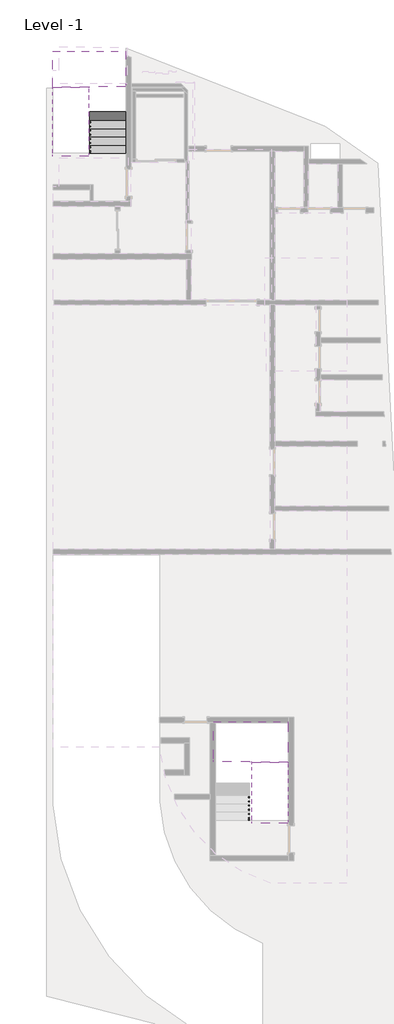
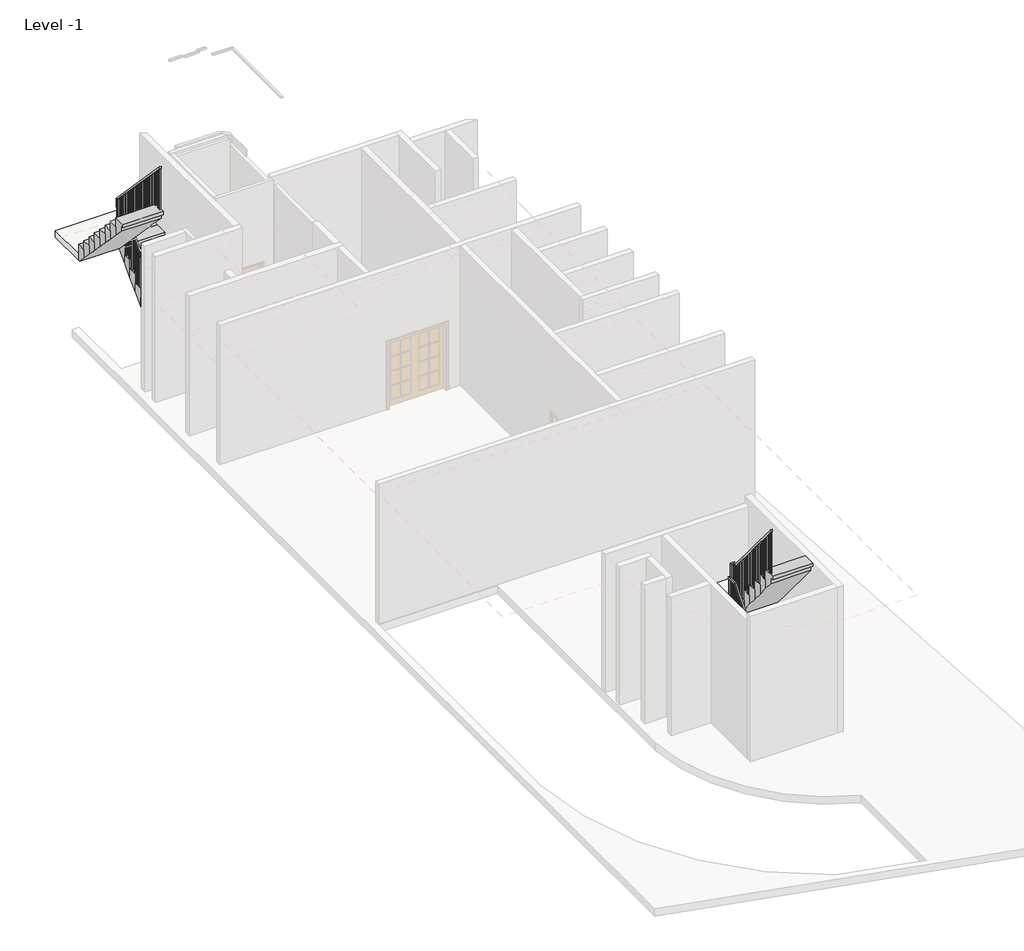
# One storey, part 3 of 3: 3 stair flights, 2 railings, 2 slabs.
"""IFC4 building model written with IfcOpenShell, lengths in millimetres."""

from ifc_helpers import new_model, si_unit, frame, origin, place, context, project, spatial, polyline, outline, extrude, faceted_brep, element, save

model = new_model("IFC4")

# Units and contexts
model_context = context("Model", 3, world=origin())
ifc_project = project(units=[si_unit("LENGTHUNIT", "METRE", prefix="MILLI")], contexts=[model_context])

# Site, building, storey
site = spatial("IfcSite", under=ifc_project)
building = spatial("IfcBuilding", under=site)
storey = spatial("IfcBuildingStorey", under=building, Name="Level -1", Elevation=-3500.0)

# Railings
placement = place(None, origin())
element("IfcRailing", 1, ObjectType="1100mm", at=placement, inside=storey, context=model_context, shape_type="SolidModel", body=[
    faceted_brep([(1179.9765888, 10328.8506586, -2106.25), (1179.9765888, 10328.8506586, -2178.717679), (1229.9765888, 10328.8506586, -2178.717679), (1229.9765888, 10328.8506586, -2106.25), (1179.9765888, 12288.8506586, -50.0), (1179.9765888, 12310.266659, -100.0), (1229.9765888, 12310.266659, -100.0), (1229.9765888, 12288.8506586, -50.0), (1179.9765888, 12569.2506586, -50.0), (1179.9765888, 12569.2506586, -100.0), (1229.9765888, 12619.2506586, -100.0), (1229.9765888, 12619.2506586, -50.0), (1159.5709975, 12569.2506586, -50.0), (1159.5709975, 12619.2506586, -50.0), (1109.5709975, 12619.2506586, -100.0), (1109.5709975, 12569.2506586, -100.0)], [[[0, 1, 2, 3]], [[1, 0, 4, 5]], [[2, 1, 5, 6]], [[3, 2, 6, 7]], [[0, 3, 7, 4]], [[5, 4, 8, 9]], [[6, 5, 9, 10]], [[7, 6, 10, 11]], [[4, 7, 11, 8]], [[12, 13, 14, 15]], [[9, 8, 12, 15]], [[10, 9, 15, 14]], [[11, 10, 14, 13]], [[8, 11, 13, 12]]]),
    faceted_brep([(1159.5709975, 12569.2506586, -50.0), (1109.5709975, 12569.2506586, -100.0), (1109.5709975, 12619.2506586, -100.0), (1159.5709975, 12619.2506586, -50.0), (1159.5709975, 12569.2506586, 170.8626782), (1159.5709975, 12619.2506586, 190.875), (1109.5709975, 12619.2506586, 190.875), (1109.5709975, 12569.2506586, 170.8626782)], [[[0, 1, 2, 3]], [[4, 5, 6, 7]], [[1, 0, 4, 7]], [[2, 1, 7, 6]], [[3, 2, 6, 5]], [[0, 3, 5, 4]]]),
    faceted_brep([(1159.5709975, 12619.2506586, 190.875), (1159.5709975, 12569.2506586, 170.8626782), (1109.5709975, 12569.2506586, 170.8626782), (1109.5709975, 12619.2506586, 190.875), (1159.5709975, 10328.8506586, 2593.75), (1109.5709975, 10328.8506586, 2593.75), (1109.5709975, 10328.8506586, 2521.282321), (1159.5709975, 10328.8506586, 2521.282321)], [[[0, 1, 2, 3]], [[4, 5, 6, 7]], [[1, 0, 4, 7]], [[2, 1, 7, 6]], [[3, 2, 6, 5]], [[0, 3, 5, 4]]]),
    extrude(outline(polyline([(10436.7506586, 1200.0), (10411.7506586, 1200.0), (10411.7506586, 2434.3113389), (10436.7506586, 2408.0836603), (10436.7506586, 1200.0)])), frame((1122.0709975, 0.0, 0.0), z_axis=(1.0, 0.0, 0.0), x_axis=(0.0, 1.0, 0.0)), (0.0, 0.0, 1.0), 25.0),
    extrude(outline(polyline([(10576.7506586, 1200.0), (10551.7506586, 1200.0), (10551.7506586, 2287.4363389), (10576.7506586, 2261.2086603), (10576.7506586, 1200.0)])), frame((1122.0709975, 0.0, 0.0), z_axis=(1.0, 0.0, 0.0), x_axis=(0.0, 1.0, 0.0)), (0.0, 0.0, 1.0), 25.0),
    extrude(outline(polyline([(10716.7506586, 906.25), (10691.7506586, 906.25), (10691.7506586, 2140.5613389), (10716.7506586, 2114.3336603), (10716.7506586, 906.25)])), frame((1122.0709975, 0.0, 0.0), z_axis=(1.0, 0.0, 0.0), x_axis=(0.0, 1.0, 0.0)), (0.0, 0.0, 1.0), 25.0),
    extrude(outline(polyline([(10856.7506586, 906.25), (10831.7506586, 906.25), (10831.7506586, 1993.6863389), (10856.7506586, 1967.4586603), (10856.7506586, 906.25)])), frame((1122.0709975, 0.0, 0.0), z_axis=(1.0, 0.0, 0.0), x_axis=(0.0, 1.0, 0.0)), (0.0, 0.0, 1.0), 25.0),
    extrude(outline(polyline([(10996.7506586, 612.5), (10971.7506586, 612.5), (10971.7506586, 1846.8113389), (10996.7506586, 1820.5836603), (10996.7506586, 612.5)])), frame((1122.0709975, 0.0, 0.0), z_axis=(1.0, 0.0, 0.0), x_axis=(0.0, 1.0, 0.0)), (0.0, 0.0, 1.0), 25.0),
    extrude(outline(polyline([(11136.7506586, 612.5), (11111.7506586, 612.5), (11111.7506586, 1699.9363389), (11136.7506586, 1673.7086603), (11136.7506586, 612.5)])), frame((1122.0709975, 0.0, 0.0), z_axis=(1.0, 0.0, 0.0), x_axis=(0.0, 1.0, 0.0)), (0.0, 0.0, 1.0), 25.0),
    extrude(outline(polyline([(11276.7506586, 318.75), (11251.7506586, 318.75), (11251.7506586, 1553.0613389), (11276.7506586, 1526.8336603), (11276.7506586, 318.75)])), frame((1122.0709975, 0.0, 0.0), z_axis=(1.0, 0.0, 0.0), x_axis=(0.0, 1.0, 0.0)), (0.0, 0.0, 1.0), 25.0),
    extrude(outline(polyline([(11416.7506586, 318.75), (11391.7506586, 318.75), (11391.7506586, 1406.1863389), (11416.7506586, 1379.9586603), (11416.7506586, 318.75)])), frame((1122.0709975, 0.0, 0.0), z_axis=(1.0, 0.0, 0.0), x_axis=(0.0, 1.0, 0.0)), (0.0, 0.0, 1.0), 25.0),
    extrude(outline(polyline([(11556.7506586, 25.0), (11531.7506586, 25.0), (11531.7506586, 1259.3113389), (11556.7506586, 1233.0836603), (11556.7506586, 25.0)])), frame((1122.0709975, 0.0, 0.0), z_axis=(1.0, 0.0, 0.0), x_axis=(0.0, 1.0, 0.0)), (0.0, 0.0, 1.0), 25.0),
    extrude(outline(polyline([(11696.7506586, 25.0), (11671.7506586, 25.0), (11671.7506586, 1112.4363389), (11696.7506586, 1086.2086603), (11696.7506586, 25.0)])), frame((1122.0709975, 0.0, 0.0), z_axis=(1.0, 0.0, 0.0), x_axis=(0.0, 1.0, 0.0)), (0.0, 0.0, 1.0), 25.0),
    extrude(outline(polyline([(11836.7506586, -268.75), (11811.7506586, -268.75), (11811.7506586, 965.5613389), (11836.7506586, 939.3336603), (11836.7506586, -268.75)])), frame((1122.0709975, 0.0, 0.0), z_axis=(1.0, 0.0, 0.0), x_axis=(0.0, 1.0, 0.0)), (0.0, 0.0, 1.0), 25.0),
    extrude(outline(polyline([(11976.7506586, -268.75), (11951.7506586, -268.75), (11951.7506586, 818.6863389), (11976.7506586, 792.4586603), (11976.7506586, -268.75)])), frame((1122.0709975, 0.0, 0.0), z_axis=(1.0, 0.0, 0.0), x_axis=(0.0, 1.0, 0.0)), (0.0, 0.0, 1.0), 25.0),
    extrude(outline(polyline([(12116.7506586, -562.5), (12091.7506586, -562.5), (12091.7506586, 671.8113389), (12116.7506586, 645.5836603), (12116.7506586, -562.5)])), frame((1122.0709975, 0.0, 0.0), z_axis=(1.0, 0.0, 0.0), x_axis=(0.0, 1.0, 0.0)), (0.0, 0.0, 1.0), 25.0),
    extrude(outline(polyline([(12256.7506586, -562.5), (12231.7506586, -562.5), (12231.7506586, 524.9363389), (12256.7506586, 498.7086603), (12256.7506586, -562.5)])), frame((1122.0709975, 0.0, 0.0), z_axis=(1.0, 0.0, 0.0), x_axis=(0.0, 1.0, 0.0)), (0.0, 0.0, 1.0), 25.0),
    extrude(outline(polyline([(12396.7506586, -856.25), (12371.7506586, -856.25), (12371.7506586, 378.0613389), (12396.7506586, 351.8336603), (12396.7506586, -856.25)])), frame((1122.0709975, 0.0, 0.0), z_axis=(1.0, 0.0, 0.0), x_axis=(0.0, 1.0, 0.0)), (0.0, 0.0, 1.0), 25.0),
    extrude(outline(polyline([(12536.7506586, -856.25), (12511.7506586, -856.25), (12511.7506586, 231.1863389), (12536.7506586, 204.9586603), (12536.7506586, -856.25)])), frame((1122.0709975, 0.0, 0.0), z_axis=(1.0, 0.0, 0.0), x_axis=(0.0, 1.0, 0.0)), (0.0, 0.0, 1.0), 25.0),
    extrude(outline(polyline([(1147.4765888, 12581.7506586), (1122.4765888, 12581.7506586), (1122.4765888, 12606.7506586), (1147.4765888, 12606.7506586), (1147.4765888, 12581.7506586)])), frame((0.0, 0.0, -1150.0), z_axis=(0.0, 0.0, 1.0), x_axis=(1.0, 0.0, 0.0)), (0.0, 0.0, 1.0), 1050.0),
    extrude(outline(polyline([(1192.4765888, 12486.3506586), (1192.4765888, 12511.3506586), (1217.4765888, 12511.3506586), (1217.4765888, 12486.3506586), (1192.4765888, 12486.3506586)])), frame((0.0, 0.0, -1150.0), z_axis=(0.0, 0.0, 1.0), x_axis=(1.0, 0.0, 0.0)), (0.0, 0.0, 1.0), 1050.0),
    extrude(outline(polyline([(1192.4765888, 12346.3506586), (1192.4765888, 12371.3506586), (1217.4765888, 12371.3506586), (1217.4765888, 12346.3506586), (1192.4765888, 12346.3506586)])), frame((0.0, 0.0, -1150.0), z_axis=(0.0, 0.0, 1.0), x_axis=(1.0, 0.0, 0.0)), (0.0, 0.0, 1.0), 1050.0),
    extrude(outline(polyline([(12206.3506586, -209.0190182), (12231.3506586, -182.7913397), (12231.3506586, -1443.75), (12206.3506586, -1443.75), (12206.3506586, -209.0190182)])), frame((1192.4765888, 0.0, 0.0), z_axis=(1.0, 0.0, 0.0), x_axis=(0.0, 1.0, 0.0)), (0.0, 0.0, 1.0), 25.0),
    extrude(outline(polyline([(12066.3506586, -355.8940182), (12091.3506586, -329.6663397), (12091.3506586, -1443.75), (12066.3506586, -1443.75), (12066.3506586, -355.8940182)])), frame((1192.4765888, 0.0, 0.0), z_axis=(1.0, 0.0, 0.0), x_axis=(0.0, 1.0, 0.0)), (0.0, 0.0, 1.0), 25.0),
    extrude(outline(polyline([(11926.3506586, -502.7690182), (11951.3506586, -476.5413397), (11951.3506586, -1737.5), (11926.3506586, -1737.5), (11926.3506586, -502.7690182)])), frame((1192.4765888, 0.0, 0.0), z_axis=(1.0, 0.0, 0.0), x_axis=(0.0, 1.0, 0.0)), (0.0, 0.0, 1.0), 25.0),
    extrude(outline(polyline([(11786.3506586, -649.6440182), (11811.3506586, -623.4163397), (11811.3506586, -1737.5), (11786.3506586, -1737.5), (11786.3506586, -649.6440182)])), frame((1192.4765888, 0.0, 0.0), z_axis=(1.0, 0.0, 0.0), x_axis=(0.0, 1.0, 0.0)), (0.0, 0.0, 1.0), 25.0),
    extrude(outline(polyline([(11646.3506586, -796.5190182), (11671.3506586, -770.2913397), (11671.3506586, -2031.25), (11646.3506586, -2031.25), (11646.3506586, -796.5190182)])), frame((1192.4765888, 0.0, 0.0), z_axis=(1.0, 0.0, 0.0), x_axis=(0.0, 1.0, 0.0)), (0.0, 0.0, 1.0), 25.0),
    extrude(outline(polyline([(11506.3506586, -943.3940182), (11531.3506586, -917.1663397), (11531.3506586, -2031.25), (11506.3506586, -2031.25), (11506.3506586, -943.3940182)])), frame((1192.4765888, 0.0, 0.0), z_axis=(1.0, 0.0, 0.0), x_axis=(0.0, 1.0, 0.0)), (0.0, 0.0, 1.0), 25.0),
    extrude(outline(polyline([(11366.3506586, -1090.2690182), (11391.3506586, -1064.0413397), (11391.3506586, -2325.0), (11366.3506586, -2325.0), (11366.3506586, -1090.2690182)])), frame((1192.4765888, 0.0, 0.0), z_axis=(1.0, 0.0, 0.0), x_axis=(0.0, 1.0, 0.0)), (0.0, 0.0, 1.0), 25.0),
    extrude(outline(polyline([(11226.3506586, -1237.1440182), (11251.3506586, -1210.9163397), (11251.3506586, -2325.0), (11226.3506586, -2325.0), (11226.3506586, -1237.1440182)])), frame((1192.4765888, 0.0, 0.0), z_axis=(1.0, 0.0, 0.0), x_axis=(0.0, 1.0, 0.0)), (0.0, 0.0, 1.0), 25.0),
    extrude(outline(polyline([(11086.3506586, -1384.0190182), (11111.3506586, -1357.7913397), (11111.3506586, -2618.75), (11086.3506586, -2618.75), (11086.3506586, -1384.0190182)])), frame((1192.4765888, 0.0, 0.0), z_axis=(1.0, 0.0, 0.0), x_axis=(0.0, 1.0, 0.0)), (0.0, 0.0, 1.0), 25.0),
    extrude(outline(polyline([(10946.3506586, -1530.8940182), (10971.3506586, -1504.6663397), (10971.3506586, -2618.75), (10946.3506586, -2618.75), (10946.3506586, -1530.8940182)])), frame((1192.4765888, 0.0, 0.0), z_axis=(1.0, 0.0, 0.0), x_axis=(0.0, 1.0, 0.0)), (0.0, 0.0, 1.0), 25.0),
    extrude(outline(polyline([(10806.3506586, -1677.7690182), (10831.3506586, -1651.5413397), (10831.3506586, -2912.5), (10806.3506586, -2912.5), (10806.3506586, -1677.7690182)])), frame((1192.4765888, 0.0, 0.0), z_axis=(1.0, 0.0, 0.0), x_axis=(0.0, 1.0, 0.0)), (0.0, 0.0, 1.0), 25.0),
    extrude(outline(polyline([(10666.3506586, -1824.6440182), (10691.3506586, -1798.4163397), (10691.3506586, -2912.5), (10666.3506586, -2912.5), (10666.3506586, -1824.6440182)])), frame((1192.4765888, 0.0, 0.0), z_axis=(1.0, 0.0, 0.0), x_axis=(0.0, 1.0, 0.0)), (0.0, 0.0, 1.0), 25.0),
    extrude(outline(polyline([(10526.3506586, -1971.5190182), (10551.3506586, -1945.2913397), (10551.3506586, -3206.25), (10526.3506586, -3206.25), (10526.3506586, -1971.5190182)])), frame((1192.4765888, 0.0, 0.0), z_axis=(1.0, 0.0, 0.0), x_axis=(0.0, 1.0, 0.0)), (0.0, 0.0, 1.0), 25.0),
    extrude(outline(polyline([(10386.3506586, -2118.3940182), (10411.3506586, -2092.1663397), (10411.3506586, -3206.25), (10386.3506586, -3206.25), (10386.3506586, -2118.3940182)])), frame((1192.4765888, 0.0, 0.0), z_axis=(1.0, 0.0, 0.0), x_axis=(0.0, 1.0, 0.0)), (0.0, 0.0, 1.0), 25.0),
    extrude(outline(polyline([(1147.0709975, 12606.7506586), (1147.0709975, 12581.7506586), (1122.0709975, 12581.7506586), (1122.0709975, 12606.7506586), (1147.0709975, 12606.7506586)])), frame((0.0, 0.0, -1150.0), z_axis=(0.0, 0.0, 1.0), x_axis=(1.0, 0.0, 0.0)), (0.0, 0.0, 1.0), 1050.0),
    extrude(outline(polyline([(1192.4765888, 12581.7506586), (1192.4765888, 12606.7506586), (1217.4765888, 12606.7506586), (1217.4765888, 12581.7506586), (1192.4765888, 12581.7506586)])), frame((0.0, 0.0, -1150.0), z_axis=(0.0, 0.0, 1.0), x_axis=(1.0, 0.0, 0.0)), (0.0, 0.0, 1.0), 1050.0),
    extrude(outline(polyline([(12276.3506586, -135.5815182), (12301.3506586, -109.3538397), (12301.3506586, -1150.0), (12276.3506586, -1150.0), (12276.3506586, -135.5815182)])), frame((1192.4765888, 0.0, 0.0), z_axis=(1.0, 0.0, 0.0), x_axis=(0.0, 1.0, 0.0)), (0.0, 0.0, 1.0), 25.0),
    extrude(outline(polyline([(10353.8506586, 1200.0), (10328.8506586, 1200.0), (10328.8506586, 2521.282321), (10353.8506586, 2495.0546425), (10353.8506586, 1200.0)])), frame((1122.0709975, 0.0, 0.0), z_axis=(1.0, 0.0, 0.0), x_axis=(0.0, 1.0, 0.0)), (0.0, 0.0, 1.0), 25.0),
    extrude(outline(polyline([(10328.8506586, -2178.717679), (10353.8506586, -2152.4900004), (10353.8506586, -3206.25), (10328.8506586, -3206.25), (10328.8506586, -2178.717679)])), frame((1192.4765888, 0.0, 0.0), z_axis=(1.0, 0.0, 0.0), x_axis=(0.0, 1.0, 0.0)), (0.0, 0.0, 1.0), 25.0),
])
element("IfcRailing", 2, ObjectType="1100mm", at=placement, inside=storey, context=model_context, shape_type="SolidModel", body=[
    faceted_brep([(6559.5709976, -12235.6929429, -2064.2857143), (6559.5709976, -12235.6929429, -2142.3490229), (6609.5709976, -12235.6929429, -2142.3490229), (6609.5709976, -12235.6929429, -2064.2857143), (6559.5709976, -10555.6929429, -50.0), (6559.5709976, -10532.2869493, -100.0), (6609.5709976, -10532.2869493, -100.0), (6609.5709976, -10555.6929429, -50.0), (6559.5709976, -10225.2929429, -50.0), (6559.5709976, -10225.2929429, -100.0), (6609.5709976, -10275.2929429, -100.0), (6609.5709976, -10275.2929429, -50.0), (6615.3709976, -10225.2929429, -50.0), (6665.3709976, -10225.2929429, -100.0), (6665.3709976, -10275.2929429, -100.0), (6615.3709976, -10275.2929429, -50.0), (6615.3709976, -10225.2929429, 375.1581633), (6665.3709976, -10225.2929429, 325.1581633), (6665.3709976, -10275.2929429, 325.1581633), (6615.3709976, -10275.2929429, 375.1581633), (6740.3709976, -10225.2929429, 375.1581633), (6740.3709976, -10225.2929429, 325.1581633), (6690.3709976, -10275.2929429, 325.1581633), (6690.3709976, -10275.2929429, 375.1581633), (6740.3709976, -10350.2929429, 375.1581633), (6740.3709976, -10373.6989365, 325.1581633), (6690.3709976, -10373.6989365, 325.1581633), (6690.3709976, -10350.2929429, 375.1581633), (6740.3709976, -12235.6929429, 2635.7142857), (6690.3709976, -12235.6929429, 2635.7142857), (6690.3709976, -12235.6929429, 2557.6509771), (6740.3709976, -12235.6929429, 2557.6509771)], [[[0, 1, 2, 3]], [[1, 0, 4, 5]], [[2, 1, 5, 6]], [[3, 2, 6, 7]], [[0, 3, 7, 4]], [[5, 4, 8, 9]], [[6, 5, 9, 10]], [[7, 6, 10, 11]], [[4, 7, 11, 8]], [[9, 8, 12, 13]], [[10, 9, 13, 14]], [[11, 10, 14, 15]], [[8, 11, 15, 12]], [[13, 12, 16, 17]], [[14, 13, 17, 18]], [[15, 14, 18, 19]], [[12, 15, 19, 16]], [[17, 16, 20, 21]], [[18, 17, 21, 22]], [[19, 18, 22, 23]], [[16, 19, 23, 20]], [[21, 20, 24, 25]], [[22, 21, 25, 26]], [[23, 22, 26, 27]], [[20, 23, 27, 24]], [[28, 29, 30, 31]], [[25, 24, 28, 31]], [[26, 25, 31, 30]], [[27, 26, 30, 29]], [[24, 27, 29, 28]]]),
    extrude(outline(polyline([(-12127.7929429, 2428.2810791), (-12127.7929429, 1200.0), (-12152.7929429, 1200.0), (-12152.7929429, 2458.2555689), (-12127.7929429, 2428.2810791)])), frame((6702.8709976, 0.0, 0.0), z_axis=(1.0, 0.0, 0.0), x_axis=(0.0, 1.0, 0.0)), (0.0, 0.0, 1.0), 25.0),
    extrude(outline(polyline([(-11987.7929429, 2260.4239363), (-11987.7929429, 1200.0), (-12012.7929429, 1200.0), (-12012.7929429, 2290.3984261), (-11987.7929429, 2260.4239363)])), frame((6702.8709976, 0.0, 0.0), z_axis=(1.0, 0.0, 0.0), x_axis=(0.0, 1.0, 0.0)), (0.0, 0.0, 1.0), 25.0),
    extrude(outline(polyline([(-11847.7929429, 2092.5667934), (-11847.7929429, 864.2857143), (-11872.7929429, 864.2857143), (-11872.7929429, 2122.5412832), (-11847.7929429, 2092.5667934)])), frame((6702.8709976, 0.0, 0.0), z_axis=(1.0, 0.0, 0.0), x_axis=(0.0, 1.0, 0.0)), (0.0, 0.0, 1.0), 25.0),
    extrude(outline(polyline([(-11707.7929429, 1924.7096506), (-11707.7929429, 864.2857143), (-11732.7929429, 864.2857143), (-11732.7929429, 1954.6841404), (-11707.7929429, 1924.7096506)])), frame((6702.8709976, 0.0, 0.0), z_axis=(1.0, 0.0, 0.0), x_axis=(0.0, 1.0, 0.0)), (0.0, 0.0, 1.0), 25.0),
    extrude(outline(polyline([(-11567.7929429, 1756.8525077), (-11567.7929429, 528.5714286), (-11592.7929429, 528.5714286), (-11592.7929429, 1786.8269975), (-11567.7929429, 1756.8525077)])), frame((6702.8709976, 0.0, 0.0), z_axis=(1.0, 0.0, 0.0), x_axis=(0.0, 1.0, 0.0)), (0.0, 0.0, 1.0), 25.0),
    extrude(outline(polyline([(-11427.7929429, 1588.9953648), (-11427.7929429, 528.5714286), (-11452.7929429, 528.5714286), (-11452.7929429, 1618.9698546), (-11427.7929429, 1588.9953648)])), frame((6702.8709976, 0.0, 0.0), z_axis=(1.0, 0.0, 0.0), x_axis=(0.0, 1.0, 0.0)), (0.0, 0.0, 1.0), 25.0),
    extrude(outline(polyline([(-11287.7929429, 1421.138222), (-11287.7929429, 192.8571429), (-11312.7929429, 192.8571429), (-11312.7929429, 1451.1127118), (-11287.7929429, 1421.138222)])), frame((6702.8709976, 0.0, 0.0), z_axis=(1.0, 0.0, 0.0), x_axis=(0.0, 1.0, 0.0)), (0.0, 0.0, 1.0), 25.0),
    extrude(outline(polyline([(-11147.7929429, 1253.2810791), (-11147.7929429, 192.8571429), (-11172.7929429, 192.8571429), (-11172.7929429, 1283.2555689), (-11147.7929429, 1253.2810791)])), frame((6702.8709976, 0.0, 0.0), z_axis=(1.0, 0.0, 0.0), x_axis=(0.0, 1.0, 0.0)), (0.0, 0.0, 1.0), 25.0),
    extrude(outline(polyline([(-11007.7929429, 1085.4239363), (-11007.7929429, -142.8571429), (-11032.7929429, -142.8571429), (-11032.7929429, 1115.3984261), (-11007.7929429, 1085.4239363)])), frame((6702.8709976, 0.0, 0.0), z_axis=(1.0, 0.0, 0.0), x_axis=(0.0, 1.0, 0.0)), (0.0, 0.0, 1.0), 25.0),
    extrude(outline(polyline([(-10867.7929429, 917.5667934), (-10867.7929429, -142.8571429), (-10892.7929429, -142.8571429), (-10892.7929429, 947.5412832), (-10867.7929429, 917.5667934)])), frame((6702.8709976, 0.0, 0.0), z_axis=(1.0, 0.0, 0.0), x_axis=(0.0, 1.0, 0.0)), (0.0, 0.0, 1.0), 25.0),
    extrude(outline(polyline([(-10727.7929429, 749.7096506), (-10727.7929429, -478.5714286), (-10752.7929429, -478.5714286), (-10752.7929429, 779.6841404), (-10727.7929429, 749.7096506)])), frame((6702.8709976, 0.0, 0.0), z_axis=(1.0, 0.0, 0.0), x_axis=(0.0, 1.0, 0.0)), (0.0, 0.0, 1.0), 25.0),
    extrude(outline(polyline([(-10587.7929429, 581.8525077), (-10587.7929429, -478.5714286), (-10612.7929429, -478.5714286), (-10612.7929429, 611.8269975), (-10587.7929429, 581.8525077)])), frame((6702.8709976, 0.0, 0.0), z_axis=(1.0, 0.0, 0.0), x_axis=(0.0, 1.0, 0.0)), (0.0, 0.0, 1.0), 25.0),
    extrude(outline(polyline([(-10447.7929429, 413.9953648), (-10447.7929429, -814.2857143), (-10472.7929429, -814.2857143), (-10472.7929429, 443.9698546), (-10447.7929429, 413.9953648)])), frame((6702.8709976, 0.0, 0.0), z_axis=(1.0, 0.0, 0.0), x_axis=(0.0, 1.0, 0.0)), (0.0, 0.0, 1.0), 25.0),
    extrude(outline(polyline([(6702.8709976, -10307.7929429), (6727.8709976, -10307.7929429), (6727.8709976, -10332.7929429), (6702.8709976, -10332.7929429), (6702.8709976, -10307.7929429)])), frame((0.0, 0.0, -814.2857143), z_axis=(0.0, 0.0, 1.0), x_axis=(1.0, 0.0, 0.0)), (0.0, 0.0, 1.0), 1139.4438776),
    extrude(outline(polyline([(6642.0709976, -10262.7929429), (6642.0709976, -10237.7929429), (6667.0709976, -10237.7929429), (6667.0709976, -10262.7929429), (6642.0709976, -10262.7929429)])), frame((0.0, 0.0, -1150.0), z_axis=(0.0, 0.0, 1.0), x_axis=(1.0, 0.0, 0.0)), (0.0, 0.0, 1.0), 1050.0),
    extrude(outline(polyline([(6597.0709976, -10358.1929429), (6572.0709976, -10358.1929429), (6572.0709976, -10333.1929429), (6597.0709976, -10333.1929429), (6597.0709976, -10358.1929429)])), frame((0.0, 0.0, -1150.0), z_axis=(0.0, 0.0, 1.0), x_axis=(1.0, 0.0, 0.0)), (0.0, 0.0, 1.0), 1050.0),
    extrude(outline(polyline([(6597.0709976, -10498.1929429), (6572.0709976, -10498.1929429), (6572.0709976, -10473.1929429), (6597.0709976, -10473.1929429), (6597.0709976, -10498.1929429)])), frame((0.0, 0.0, -1150.0), z_axis=(0.0, 0.0, 1.0), x_axis=(1.0, 0.0, 0.0)), (0.0, 0.0, 1.0), 1050.0),
    extrude(outline(polyline([(-10638.1929429, -1485.7142857), (-10638.1929429, -226.979125), (-10613.1929429, -197.0046352), (-10613.1929429, -1485.7142857), (-10638.1929429, -1485.7142857)])), frame((6572.0709976, 0.0, 0.0), z_axis=(1.0, 0.0, 0.0), x_axis=(0.0, 1.0, 0.0)), (0.0, 0.0, 1.0), 25.0),
    extrude(outline(polyline([(-10778.1929429, -1485.7142857), (-10778.1929429, -394.8362678), (-10753.1929429, -364.861778), (-10753.1929429, -1485.7142857), (-10778.1929429, -1485.7142857)])), frame((6572.0709976, 0.0, 0.0), z_axis=(1.0, 0.0, 0.0), x_axis=(0.0, 1.0, 0.0)), (0.0, 0.0, 1.0), 25.0),
    extrude(outline(polyline([(-10918.1929429, -1821.4285714), (-10918.1929429, -562.6934107), (-10893.1929429, -532.7189209), (-10893.1929429, -1821.4285714), (-10918.1929429, -1821.4285714)])), frame((6572.0709976, 0.0, 0.0), z_axis=(1.0, 0.0, 0.0), x_axis=(0.0, 1.0, 0.0)), (0.0, 0.0, 1.0), 25.0),
    extrude(outline(polyline([(-11058.1929429, -1821.4285714), (-11058.1929429, -730.5505535), (-11033.1929429, -700.5760637), (-11033.1929429, -1821.4285714), (-11058.1929429, -1821.4285714)])), frame((6572.0709976, 0.0, 0.0), z_axis=(1.0, 0.0, 0.0), x_axis=(0.0, 1.0, 0.0)), (0.0, 0.0, 1.0), 25.0),
    extrude(outline(polyline([(-11198.1929429, -2157.1428571), (-11198.1929429, -898.4076964), (-11173.1929429, -868.4332066), (-11173.1929429, -2157.1428571), (-11198.1929429, -2157.1428571)])), frame((6572.0709976, 0.0, 0.0), z_axis=(1.0, 0.0, 0.0), x_axis=(0.0, 1.0, 0.0)), (0.0, 0.0, 1.0), 25.0),
    extrude(outline(polyline([(-11338.1929429, -2157.1428571), (-11338.1929429, -1066.2648392), (-11313.1929429, -1036.2903494), (-11313.1929429, -2157.1428571), (-11338.1929429, -2157.1428571)])), frame((6572.0709976, 0.0, 0.0), z_axis=(1.0, 0.0, 0.0), x_axis=(0.0, 1.0, 0.0)), (0.0, 0.0, 1.0), 25.0),
    extrude(outline(polyline([(-11478.1929429, -2492.8571429), (-11478.1929429, -1234.1219821), (-11453.1929429, -1204.1474923), (-11453.1929429, -2492.8571429), (-11478.1929429, -2492.8571429)])), frame((6572.0709976, 0.0, 0.0), z_axis=(1.0, 0.0, 0.0), x_axis=(0.0, 1.0, 0.0)), (0.0, 0.0, 1.0), 25.0),
    extrude(outline(polyline([(-11618.1929429, -2492.8571429), (-11618.1929429, -1401.979125), (-11593.1929429, -1372.0046352), (-11593.1929429, -2492.8571429), (-11618.1929429, -2492.8571429)])), frame((6572.0709976, 0.0, 0.0), z_axis=(1.0, 0.0, 0.0), x_axis=(0.0, 1.0, 0.0)), (0.0, 0.0, 1.0), 25.0),
    extrude(outline(polyline([(-11758.1929429, -2828.5714286), (-11758.1929429, -1569.8362678), (-11733.1929429, -1539.861778), (-11733.1929429, -2828.5714286), (-11758.1929429, -2828.5714286)])), frame((6572.0709976, 0.0, 0.0), z_axis=(1.0, 0.0, 0.0), x_axis=(0.0, 1.0, 0.0)), (0.0, 0.0, 1.0), 25.0),
    extrude(outline(polyline([(-11898.1929429, -2828.5714286), (-11898.1929429, -1737.6934107), (-11873.1929429, -1707.7189209), (-11873.1929429, -2828.5714286), (-11898.1929429, -2828.5714286)])), frame((6572.0709976, 0.0, 0.0), z_axis=(1.0, 0.0, 0.0), x_axis=(0.0, 1.0, 0.0)), (0.0, 0.0, 1.0), 25.0),
    extrude(outline(polyline([(-12038.1929429, -3164.2857143), (-12038.1929429, -1905.5505535), (-12013.1929429, -1875.5760637), (-12013.1929429, -3164.2857143), (-12038.1929429, -3164.2857143)])), frame((6572.0709976, 0.0, 0.0), z_axis=(1.0, 0.0, 0.0), x_axis=(0.0, 1.0, 0.0)), (0.0, 0.0, 1.0), 25.0),
    extrude(outline(polyline([(-12178.1929429, -3164.2857143), (-12178.1929429, -2073.4076964), (-12153.1929429, -2043.4332066), (-12153.1929429, -3164.2857143), (-12178.1929429, -3164.2857143)])), frame((6572.0709976, 0.0, 0.0), z_axis=(1.0, 0.0, 0.0), x_axis=(0.0, 1.0, 0.0)), (0.0, 0.0, 1.0), 25.0),
    extrude(outline(polyline([(6702.8709976, -10237.7929429), (6727.8709976, -10237.7929429), (6727.8709976, -10262.7929429), (6702.8709976, -10262.7929429), (6702.8709976, -10237.7929429)])), frame((0.0, 0.0, -1150.0), z_axis=(0.0, 0.0, 1.0), x_axis=(1.0, 0.0, 0.0)), (0.0, 0.0, 1.0), 1475.1581633),
    extrude(outline(polyline([(6597.0709976, -10262.7929429), (6572.0709976, -10262.7929429), (6572.0709976, -10237.7929429), (6597.0709976, -10237.7929429), (6597.0709976, -10262.7929429)])), frame((0.0, 0.0, -1150.0), z_axis=(0.0, 0.0, 1.0), x_axis=(1.0, 0.0, 0.0)), (0.0, 0.0, 1.0), 1050.0),
    extrude(outline(polyline([(-10568.1929429, -1150.0), (-10568.1929429, -143.0505535), (-10543.1929429, -113.0760637), (-10543.1929429, -1150.0), (-10568.1929429, -1150.0)])), frame((6572.0709976, 0.0, 0.0), z_axis=(1.0, 0.0, 0.0), x_axis=(0.0, 1.0, 0.0)), (0.0, 0.0, 1.0), 25.0),
    extrude(outline(polyline([(-12210.6929429, 2527.6764873), (-12210.6929429, 1200.0), (-12235.6929429, 1200.0), (-12235.6929429, 2557.6509771), (-12210.6929429, 2527.6764873)])), frame((6702.8709976, 0.0, 0.0), z_axis=(1.0, 0.0, 0.0), x_axis=(0.0, 1.0, 0.0)), (0.0, 0.0, 1.0), 25.0),
    extrude(outline(polyline([(-12235.6929429, -3164.2857143), (-12235.6929429, -2142.3490229), (-12210.6929429, -2112.3745331), (-12210.6929429, -3164.2857143), (-12235.6929429, -3164.2857143)])), frame((6572.0709976, 0.0, 0.0), z_axis=(1.0, 0.0, 0.0), x_axis=(0.0, 1.0, 0.0)), (0.0, 0.0, 1.0), 25.0),
])

# Slabs
element("IfcSlab", 3, ObjectType="220mm Thickness", at=placement, inside=storey, context=model_context, shape_type="Brep", body=[
    faceted_brep([(2399.5765888, 13788.8506586, -1150.0), (-60.0290025, 13788.8506586, -1150.0), (-60.0290025, 12568.8506586, -1150.0), (1159.9709975, 12568.8506586, -1150.0), (1177.9890888, 12568.8506586, -1150.0), (1177.9890888, 12678.8506586, -1150.0), (2399.5765888, 12678.8506586, -1150.0), (2399.5765888, 13788.8506586, -1370.0), (2399.5765888, 12678.8506586, -1260.0), (2399.5765888, 12578.8506586, -1260.0), (2399.5765888, 12578.8506586, -1370.0), (-60.0290025, 13788.8506586, -1370.0), (-60.0290025, 12568.8506586, -1370.0), (1159.9709975, 12568.8506586, -1370.0), (1177.9890888, 12568.8506586, -1370.0), (1177.9890888, 12578.8506586, -1370.0), (1177.9890888, 12678.8506586, -1260.0), (1177.9890888, 12578.8506586, -1260.0)], [[[0, 1, 2, 3, 4, 5, 6]], [[7, 0, 6, 8, 9, 10]], [[1, 0, 7, 11]], [[2, 1, 11, 12]], [[3, 2, 12, 13]], [[3, 13, 14, 4]], [[11, 7, 10, 15, 14, 13, 12]], [[16, 17, 9, 8]], [[5, 16, 8, 6]], [[16, 5, 4, 14, 15, 17]], [[9, 17, 15, 10]]]),
])
element("IfcSlab", 4, ObjectType="220mm Thickness", at=placement, inside=storey, context=model_context, shape_type="Brep", body=[
    faceted_brep([(6689.9709976, -10275.6929429, -1150.0), (7909.9709976, -10275.6929429, -1150.0), (7909.9709976, -8910.0372616, -1150.0), (5389.9709976, -8910.0372616, -1150.0), (5389.9709976, -10165.6929429, -1150.0), (6611.5584976, -10165.6929429, -1150.0), (6611.5584976, -10275.6929429, -1150.0), (6689.9709976, -10275.6929429, -1370.0), (6611.5584976, -10275.6929429, -1370.0), (7909.9709976, -10275.6929429, -1370.0), (7909.9709976, -8910.0372616, -1370.0), (5389.9709976, -8910.0372616, -1370.0), (5389.9709976, -10265.6929429, -1370.0), (5389.9709976, -10265.6929429, -1260.0), (5389.9709976, -10165.6929429, -1260.0), (6611.5584976, -10265.6929429, -1370.0), (6611.5584976, -10265.6929429, -1260.0), (6611.5584976, -10165.6929429, -1260.0)], [[[0, 1, 2, 3, 4, 5, 6]], [[7, 0, 6, 8]], [[1, 0, 7, 9]], [[2, 1, 9, 10]], [[3, 2, 10, 11]], [[3, 11, 12, 13, 14, 4]], [[9, 7, 8, 15, 12, 11, 10]], [[16, 17, 14, 13]], [[5, 17, 16, 15, 8, 6]], [[17, 5, 4, 14]], [[16, 13, 12, 15]]]),
])

# Stair flights
element("IfcStairFlight", 5, ObjectType="190mm Depth", at=placement, inside=storey, context=model_context, shape_type="Brep", body=[
    faceted_brep([(1179.5765888, 10608.8506586, -3206.25), (1179.5765888, 10328.8506586, -3206.25), (2399.5765888, 10328.8506586, -3206.25), (2399.5765888, 10608.8506586, -3206.25), (1179.5765888, 10608.8506586, -3481.62718), (1179.5765888, 10591.337843, -3500.0), (1179.5765888, 10328.8506586, -3500.0), (2399.5765888, 10328.8506586, -3500.0), (2399.5765888, 10591.337843, -3500.0), (2399.5765888, 10608.8506586, -3481.62718), (1179.5765888, 10888.8506586, -2912.5), (1179.5765888, 10608.8506586, -2912.5), (2399.5765888, 10608.8506586, -2912.5), (2399.5765888, 10888.8506586, -2912.5), (1179.5765888, 10888.8506586, -3187.87718), (2399.5765888, 10888.8506586, -3187.87718), (1179.5765888, 11168.8506586, -2618.75), (1179.5765888, 10888.8506586, -2618.75), (2399.5765888, 10888.8506586, -2618.75), (2399.5765888, 11168.8506586, -2618.75), (1179.5765888, 11168.8506586, -2894.12718), (2399.5765888, 11168.8506586, -2894.12718), (1179.5765888, 11448.8506586, -2325.0), (1179.5765888, 11168.8506586, -2325.0), (2399.5765888, 11168.8506586, -2325.0), (2399.5765888, 11448.8506586, -2325.0), (1179.5765888, 11448.8506586, -2600.37718), (2399.5765888, 11448.8506586, -2600.37718), (1179.5765888, 11728.8506586, -2031.25), (1179.5765888, 11448.8506586, -2031.25), (2399.5765888, 11448.8506586, -2031.25), (2399.5765888, 11728.8506586, -2031.25), (1179.5765888, 11728.8506586, -2306.62718), (2399.5765888, 11728.8506586, -2306.62718), (1179.5765888, 12008.8506586, -1737.5), (1179.5765888, 11728.8506586, -1737.5), (2399.5765888, 11728.8506586, -1737.5), (2399.5765888, 12008.8506586, -1737.5), (1179.5765888, 12008.8506586, -2012.87718), (2399.5765888, 12008.8506586, -2012.87718), (1179.5765888, 12288.8506586, -1443.75), (1179.5765888, 12008.8506586, -1443.75), (2399.5765888, 12008.8506586, -1443.75), (2399.5765888, 12288.8506586, -1443.75), (1179.5765888, 12288.8506586, -1719.12718), (2399.5765888, 12288.8506586, -1719.12718), (1179.5765888, 12288.8506586, -1150.0), (2399.5765888, 12288.8506586, -1150.0), (2399.5765888, 12668.8506586, -1150.0), (1179.5765888, 12668.8506586, -1150.0), (1179.5765888, 12668.8506586, -1250.0), (1179.5765888, 12568.8506586, -1250.0), (1179.5765888, 12568.8506586, -1425.37718), (2399.5765888, 12568.8506586, -1425.37718), (2399.5765888, 12568.8506586, -1250.0), (2399.5765888, 12668.8506586, -1250.0)], [[[0, 1, 2, 3]], [[1, 0, 4, 5, 6]], [[2, 1, 6, 7]], [[3, 2, 7, 8, 9]], [[10, 11, 12, 13]], [[11, 10, 14, 4, 0]], [[0, 3, 12, 11]], [[13, 12, 3, 9, 15]], [[16, 17, 18, 19]], [[17, 16, 20, 14, 10]], [[10, 13, 18, 17]], [[19, 18, 13, 15, 21]], [[22, 23, 24, 25]], [[23, 22, 26, 20, 16]], [[16, 19, 24, 23]], [[25, 24, 19, 21, 27]], [[28, 29, 30, 31]], [[29, 28, 32, 26, 22]], [[22, 25, 30, 29]], [[31, 30, 25, 27, 33]], [[34, 35, 36, 37]], [[35, 34, 38, 32, 28]], [[28, 31, 36, 35]], [[37, 36, 31, 33, 39]], [[40, 41, 42, 43]], [[41, 40, 44, 38, 34]], [[34, 37, 42, 41]], [[43, 42, 37, 39, 45]], [[46, 47, 48, 49]], [[46, 49, 50, 51, 52, 44, 40]], [[40, 43, 47, 46]], [[48, 47, 43, 45, 53, 54, 55]], [[52, 51, 54, 53]], [[7, 6, 5, 8]], [[8, 5, 4, 14, 20, 26, 32, 38, 44, 52, 53, 45, 39, 33, 27, 21, 15, 9]], [[55, 54, 51, 50]], [[55, 50, 49, 48]]]),
])
element("IfcStairFlight", 6, ObjectType="190mm Depth", at=placement, inside=storey, context=model_context, shape_type="Brep", body=[
    faceted_brep([(1159.9709975, 12568.8506586, -856.25), (-60.0290025, 12568.8506586, -856.25), (-60.0290025, 12516.0656019, -856.25), (-60.0290025, 12288.8506586, -856.25), (1159.9709975, 12288.8506586, -856.25), (1159.9709975, 12516.0656019, -856.25), (1159.9709975, 12288.8506586, -1131.62718), (1159.9709975, 12516.0656019, -1370.0), (1159.9709975, 12568.8506586, -1370.0), (-60.0290025, 12568.8506586, -1370.0), (-60.0290025, 12516.0656019, -1370.0), (-60.0290025, 12288.8506586, -1131.62718), (1159.9709975, 12008.8506586, -562.5), (1159.9709975, 12288.8506586, -562.5), (-60.0290025, 12288.8506586, -562.5), (-60.0290025, 12008.8506586, -562.5), (1159.9709975, 12008.8506586, -837.87718), (-60.0290025, 12008.8506586, -837.87718), (1159.9709975, 11728.8506586, -268.75), (1159.9709975, 12008.8506586, -268.75), (-60.0290025, 12008.8506586, -268.75), (-60.0290025, 11728.8506586, -268.75), (1159.9709975, 11728.8506586, -544.12718), (-60.0290025, 11728.8506586, -544.12718), (1159.9709975, 11448.8506586, 25.0), (1159.9709975, 11728.8506586, 25.0), (-60.0290025, 11728.8506586, 25.0), (-60.0290025, 11448.8506586, 25.0), (1159.9709975, 11448.8506586, -250.37718), (-60.0290025, 11448.8506586, -250.37718), (1159.9709975, 11168.8506586, 318.75), (1159.9709975, 11448.8506586, 318.75), (-60.0290025, 11448.8506586, 318.75), (-60.0290025, 11168.8506586, 318.75), (1159.9709975, 11168.8506586, 43.37282), (-60.0290025, 11168.8506586, 43.37282), (1159.9709975, 10888.8506586, 612.5), (1159.9709975, 11168.8506586, 612.5), (-60.0290025, 11168.8506586, 612.5), (-60.0290025, 10888.8506586, 612.5), (1159.9709975, 10888.8506586, 337.12282), (-60.0290025, 10888.8506586, 337.12282), (1159.9709975, 10608.8506586, 906.25), (1159.9709975, 10888.8506586, 906.25), (-60.0290025, 10888.8506586, 906.25), (-60.0290025, 10608.8506586, 906.25), (1159.9709975, 10608.8506586, 630.87282), (-60.0290025, 10608.8506586, 630.87282), (1159.9709975, 10608.8506586, 1200.0), (-60.0290025, 10608.8506586, 1200.0), (-60.0290025, 10228.8506586, 1200.0), (1159.9709975, 10228.8506586, 1200.0), (1159.9709975, 10228.8506586, 1100.0), (1159.9709975, 10328.8506586, 1100.0), (1159.9709975, 10328.8506586, 924.62282), (-60.0290025, 10328.8506586, 924.62282), (-60.0290025, 10328.8506586, 1100.0), (-60.0290025, 10228.8506586, 1100.0)], [[[0, 1, 2, 3, 4, 5]], [[4, 6, 7, 8, 0, 5]], [[1, 0, 8, 9]], [[1, 9, 10, 11, 3, 2]], [[12, 13, 14, 15]], [[13, 12, 16, 6, 4]], [[14, 13, 4, 3]], [[15, 14, 3, 11, 17]], [[18, 19, 20, 21]], [[19, 18, 22, 16, 12]], [[20, 19, 12, 15]], [[21, 20, 15, 17, 23]], [[24, 25, 26, 27]], [[25, 24, 28, 22, 18]], [[26, 25, 18, 21]], [[27, 26, 21, 23, 29]], [[30, 31, 32, 33]], [[31, 30, 34, 28, 24]], [[32, 31, 24, 27]], [[33, 32, 27, 29, 35]], [[36, 37, 38, 39]], [[37, 36, 40, 34, 30]], [[38, 37, 30, 33]], [[39, 38, 33, 35, 41]], [[42, 43, 44, 45]], [[43, 42, 46, 40, 36]], [[44, 43, 36, 39]], [[45, 44, 39, 41, 47]], [[48, 49, 50, 51]], [[48, 51, 52, 53, 54, 46, 42]], [[49, 48, 42, 45]], [[50, 49, 45, 47, 55, 56, 57]], [[55, 54, 53, 56]], [[10, 7, 6, 16, 22, 28, 34, 40, 46, 54, 55, 47, 41, 35, 29, 23, 17, 11]], [[7, 10, 9, 8]], [[57, 56, 53, 52]], [[57, 52, 51, 50]]]),
])
element("IfcStairFlight", 7, ObjectType="190mm Depth", at=placement, inside=storey, context=model_context, shape_type="Brep", body=[
    faceted_brep([(7909.9709976, -10275.6929429, -814.2857143), (6689.9709976, -10275.6929429, -814.2857143), (6689.9709976, -10339.6144419, -814.2857143), (6689.9709976, -10555.6929429, -814.2857143), (7909.9709976, -10555.6929429, -814.2857143), (7909.9709976, -10339.6144419, -814.2857143), (7909.9709976, -10555.6929429, -1110.9262871), (7909.9709976, -10339.6144419, -1370.0), (7909.9709976, -10275.6929429, -1370.0), (6689.9709976, -10275.6929429, -1370.0), (6689.9709976, -10339.6144419, -1370.0), (6689.9709976, -10555.6929429, -1110.9262871), (7909.9709976, -10835.6929429, -478.5714286), (7909.9709976, -10555.6929429, -478.5714286), (6689.9709976, -10555.6929429, -478.5714286), (6689.9709976, -10835.6929429, -478.5714286), (7909.9709976, -10835.6929429, -775.2120014), (6689.9709976, -10835.6929429, -775.2120014), (7909.9709976, -11115.6929429, -142.8571429), (7909.9709976, -10835.6929429, -142.8571429), (6689.9709976, -10835.6929429, -142.8571429), (6689.9709976, -11115.6929429, -142.8571429), (7909.9709976, -11115.6929429, -439.4977156), (6689.9709976, -11115.6929429, -439.4977156), (7909.9709976, -11395.6929429, 192.8571429), (7909.9709976, -11115.6929429, 192.8571429), (6689.9709976, -11115.6929429, 192.8571429), (6689.9709976, -11395.6929429, 192.8571429), (7909.9709976, -11395.6929429, -103.7834299), (6689.9709976, -11395.6929429, -103.7834299), (7909.9709976, -11675.6929429, 528.5714286), (7909.9709976, -11395.6929429, 528.5714286), (6689.9709976, -11395.6929429, 528.5714286), (6689.9709976, -11675.6929429, 528.5714286), (7909.9709976, -11675.6929429, 231.9308558), (6689.9709976, -11675.6929429, 231.9308558), (7909.9709976, -11955.6929429, 864.2857143), (7909.9709976, -11675.6929429, 864.2857143), (6689.9709976, -11675.6929429, 864.2857143), (6689.9709976, -11955.6929429, 864.2857143), (7909.9709976, -11955.6929429, 567.6451415), (6689.9709976, -11955.6929429, 567.6451415), (7909.9709976, -11955.6929429, 1200.0), (6689.9709976, -11955.6929429, 1200.0), (6689.9709976, -12335.6929429, 1200.0), (7909.9709976, -12335.6929429, 1200.0), (7909.9709976, -12335.6929429, 1100.0), (7909.9709976, -12235.6929429, 1100.0), (7909.9709976, -12235.6929429, 903.3594272), (6689.9709976, -12235.6929429, 903.3594272), (6689.9709976, -12235.6929429, 1100.0), (6689.9709976, -12335.6929429, 1100.0)], [[[0, 1, 2, 3, 4, 5]], [[4, 6, 7, 8, 0, 5]], [[1, 0, 8, 9]], [[1, 9, 10, 11, 3, 2]], [[12, 13, 14, 15]], [[13, 12, 16, 6, 4]], [[14, 13, 4, 3]], [[15, 14, 3, 11, 17]], [[18, 19, 20, 21]], [[19, 18, 22, 16, 12]], [[20, 19, 12, 15]], [[21, 20, 15, 17, 23]], [[24, 25, 26, 27]], [[25, 24, 28, 22, 18]], [[26, 25, 18, 21]], [[27, 26, 21, 23, 29]], [[30, 31, 32, 33]], [[31, 30, 34, 28, 24]], [[32, 31, 24, 27]], [[33, 32, 27, 29, 35]], [[36, 37, 38, 39]], [[37, 36, 40, 34, 30]], [[38, 37, 30, 33]], [[39, 38, 33, 35, 41]], [[42, 43, 44, 45]], [[42, 45, 46, 47, 48, 40, 36]], [[43, 42, 36, 39]], [[44, 43, 39, 41, 49, 50, 51]], [[49, 48, 47, 50]], [[10, 7, 6, 16, 22, 28, 34, 40, 48, 49, 41, 35, 29, 23, 17, 11]], [[7, 10, 9, 8]], [[51, 50, 47, 46]], [[51, 46, 45, 44]]]),
])

save(model, "model.ifc")
